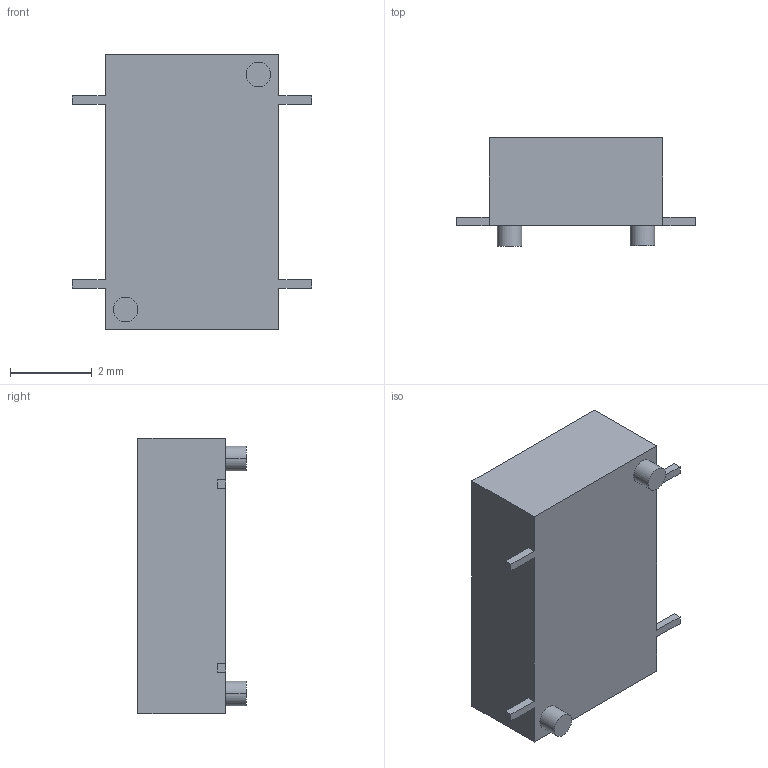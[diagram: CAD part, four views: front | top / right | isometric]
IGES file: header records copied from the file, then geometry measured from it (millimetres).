
Start section:  PTC IGES file: batt-conn-jae-f_prt.igs
Global section: file name: batt-conn-jae-f_prt.igs; native system: Pro/ENGINEER by Parametric Technology Corporation; preprocessor: 2000030; author: ECaille; organization: Unknown; date: 000803.091920; units: millimetre
Bounding box: 5.85 x 2.65 x 6.75 mm (x, y, z)
Surface area: 109.1 mm2 (no closed solid volume)
Topology: 0 solids, 0 shells, 28 faces, 236 edges, 324 vertices
Faces by surface type: bspline 24, revolution 4
